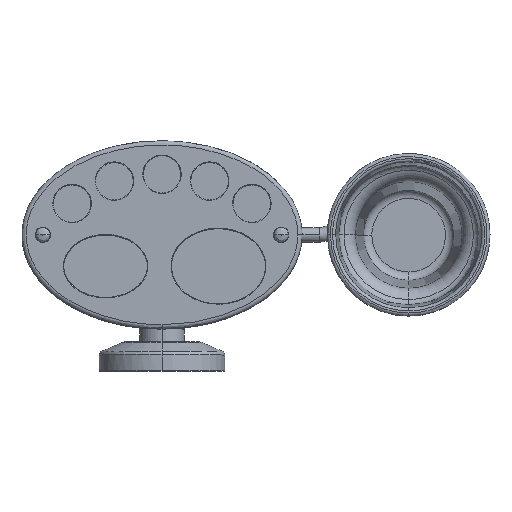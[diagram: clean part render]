
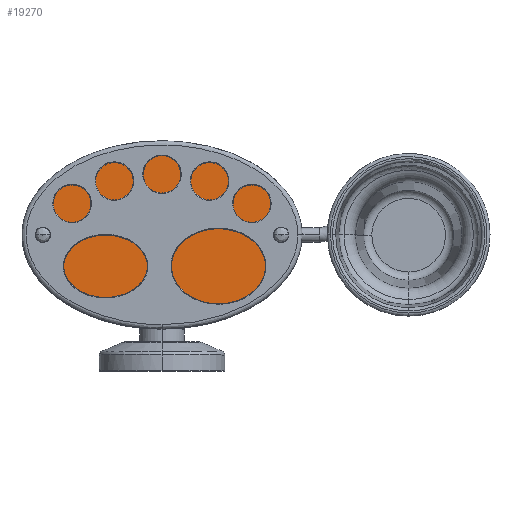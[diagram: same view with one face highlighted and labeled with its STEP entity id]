
A CAD part, top view. The second image highlights one B-rep face of the part: STEP entity #19270.
In plain terms, the highlighted planar face has unit normal (0, 0, 1).
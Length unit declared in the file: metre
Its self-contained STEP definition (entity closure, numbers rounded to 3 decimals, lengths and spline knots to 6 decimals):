
#19015=VERTEX_POINT('',#19016);
#19016=CARTESIAN_POINT('',(0.06,0.051,0.004));
#19021=CARTESIAN_POINT('',(0.06,0.051,0.004));
#19023=EDGE_CURVE('',#19015,#19024,#19026,.T.);
#19024=VERTEX_POINT('',#19025);
#19025=CARTESIAN_POINT('',(0.054,0.051,0.004));
#19026=(B_SPLINE_CURVE(3,(#19021,#19027,#19028,#19029),.UNSPECIFIED.,.F.,
  .U.)B_SPLINE_CURVE_WITH_KNOTS((4,4),(0.0,1.0),.UNSPECIFIED.)BOUNDED_CURVE(
  )CURVE()GEOMETRIC_REPRESENTATION_ITEM()RATIONAL_B_SPLINE_CURVE((1.0,
  0.333,0.333,1.0))REPRESENTATION_ITEM(''));
#19027=CARTESIAN_POINT('',(0.06,0.057,0.004));
#19028=CARTESIAN_POINT('',(0.054,0.057,0.004));
#19029=CARTESIAN_POINT('',(0.054,0.051,0.004));
#19057=VERTEX_POINT('',#19058);
#19058=CARTESIAN_POINT('',(-0.054,0.051,0.004));
#19063=CARTESIAN_POINT('',(-0.054,0.051,0.004));
#19065=EDGE_CURVE('',#19057,#19066,#19068,.T.);
#19066=VERTEX_POINT('',#19067);
#19067=CARTESIAN_POINT('',(-0.06,0.051,0.004));
#19068=(B_SPLINE_CURVE(3,(#19063,#19069,#19070,#19071),.UNSPECIFIED.,.F.,
  .U.)B_SPLINE_CURVE_WITH_KNOTS((4,4),(0.0,1.0),.UNSPECIFIED.)BOUNDED_CURVE(
  )CURVE()GEOMETRIC_REPRESENTATION_ITEM()RATIONAL_B_SPLINE_CURVE((1.0,
  0.333,0.333,1.0))REPRESENTATION_ITEM(''));
#19069=CARTESIAN_POINT('',(-0.054,0.057,0.004));
#19070=CARTESIAN_POINT('',(-0.06,0.057,0.004));
#19071=CARTESIAN_POINT('',(-0.06,0.051,0.004));
#19142=EDGE_CURVE('',#19066,#19057,#19143,.T.);
#19143=CIRCLE('',#19144,0.003);
#19144=AXIS2_PLACEMENT_3D('',#19145,#19146,#19147);
#19145=CARTESIAN_POINT('',(-0.057,0.051,0.004));
#19146=DIRECTION('',(0.0,0.,1.0));
#19147=DIRECTION('',(-1.0,-0.0,0.0));
#19161=EDGE_CURVE('',#19024,#19015,#19162,.T.);
#19162=CIRCLE('',#19163,0.003);
#19163=AXIS2_PLACEMENT_3D('',#19164,#19165,#19166);
#19164=CARTESIAN_POINT('',(0.057,0.051,0.004));
#19165=DIRECTION('',(0.0,0.,1.0));
#19166=DIRECTION('',(-1.0,-0.0,0.0));
#19270=ADVANCED_FACE('',(#19276,#19338,#19342),#19271,.T.);
#19271=PLANE('',#19272);
#19272=AXIS2_PLACEMENT_3D('',#19273,#19274,#19275);
#19273=CARTESIAN_POINT('',(0.0,0.051,0.004));
#19274=DIRECTION('',(0.0,0.,1.0));
#19275=DIRECTION('',(0.0,1.0,0.));
#19276=FACE_OUTER_BOUND('',#19277,.T.);
#19277=EDGE_LOOP('',(#19278,#19322));
#19278=ORIENTED_EDGE('',*,*,#19279,.T.);
#19279=EDGE_CURVE('',#19280,#19283,#19285,.T.);
#19280=VERTEX_POINT('',#19281);
#19281=CARTESIAN_POINT('',(-0.0,0.095,0.004));
#19282=CARTESIAN_POINT('',(-0.0,0.095,0.004));
#19283=VERTEX_POINT('',#19284);
#19284=CARTESIAN_POINT('',(0.066,0.051,0.004));
#19285=B_SPLINE_CURVE_WITH_KNOTS('',2,(#19282,#19286,#19287,#19288,#19289,
  #19290,#19291,#19292,#19293,#19294,#19295,#19296,#19297,#19298,#19299,
  #19300,#19301,#19302,#19303,#19304,#19305,#19306,#19307,#19308,#19309,
  #19310,#19311,#19312,#19313,#19314,#19315,#19316,#19317,#19318,#19319,
  #19320,#19321),.UNSPECIFIED.,.F.,.U.,(3,2,2,2,2,2,2,2,2,2,2,2,2,2,2,2,
  2,2,3),(0.0,0.0625,0.125,0.1875,0.25,0.28125,0.3125,0.375,0.4375,0.5,
  0.5625,0.625,0.6875,0.75,0.8125,0.875,0.9375,0.96875,1.0),
  .UNSPECIFIED.);
#19286=CARTESIAN_POINT('',(-0.008246,0.094998,0.004));
#19287=CARTESIAN_POINT('',(-0.01622,0.093647,0.004));
#19288=CARTESIAN_POINT('',(-0.02451,0.092244,0.004));
#19289=CARTESIAN_POINT('',(-0.031985,0.089476,0.004));
#19290=CARTESIAN_POINT('',(-0.040034,0.086495,0.004));
#19291=CARTESIAN_POINT('',(-0.046547,0.082171,0.004));
#19292=CARTESIAN_POINT('',(-0.053861,0.077315,0.004));
#19293=CARTESIAN_POINT('',(-0.058621,0.07119,0.004));
#19294=CARTESIAN_POINT('',(-0.061214,0.067853,0.004));
#19295=CARTESIAN_POINT('',(-0.062937,0.064228,0.004));
#19296=CARTESIAN_POINT('',(-0.06475,0.060412,0.004));
#19297=CARTESIAN_POINT('',(-0.065492,0.05644,0.004));
#19298=CARTESIAN_POINT('',(-0.067016,0.048278,0.004));
#19299=CARTESIAN_POINT('',(-0.064017,0.040315,0.004));
#19300=CARTESIAN_POINT('',(-0.061258,0.032988,0.004));
#19301=CARTESIAN_POINT('',(-0.05499,0.026695,0.004));
#19302=CARTESIAN_POINT('',(-0.0495,0.021183,0.004));
#19303=CARTESIAN_POINT('',(-0.041858,0.017,0.004));
#19304=CARTESIAN_POINT('',(-0.034963,0.013227,0.004));
#19305=CARTESIAN_POINT('',(-0.02682,0.010806,0.004));
#19306=CARTESIAN_POINT('',(-0.019134,0.00852,0.004));
#19307=CARTESIAN_POINT('',(-0.010832,0.007598,0.004));
#19308=CARTESIAN_POINT('',(-0.002758,0.006701,0.004));
#19309=CARTESIAN_POINT('',(0.005396,0.007148,0.004));
#19310=CARTESIAN_POINT('',(0.013678,0.007601,0.004));
#19311=CARTESIAN_POINT('',(0.021524,0.009411,0.004));
#19312=CARTESIAN_POINT('',(0.029714,0.011301,0.004));
#19313=CARTESIAN_POINT('',(0.036892,0.014531,0.004));
#19314=CARTESIAN_POINT('',(0.044791,0.018086,0.004));
#19315=CARTESIAN_POINT('',(0.05088,0.023,0.004));
#19316=CARTESIAN_POINT('',(0.05775,0.028544,0.004));
#19317=CARTESIAN_POINT('',(0.061635,0.035289,0.004));
#19318=CARTESIAN_POINT('',(0.063742,0.038946,0.004));
#19319=CARTESIAN_POINT('',(0.064848,0.042841,0.004));
#19320=CARTESIAN_POINT('',(0.066002,0.046903,0.004));
#19321=CARTESIAN_POINT('',(0.066,0.051,0.004));
#19322=ORIENTED_EDGE('',*,*,#19324,.T.);
#19323=CARTESIAN_POINT('',(0.066,0.051,0.004));
#19324=EDGE_CURVE('',#19283,#19280,#19325,.T.);
#19325=B_SPLINE_CURVE_WITH_KNOTS('',2,(#19323,#19326,#19327,#19328,#19329,
  #19330,#19331,#19332,#19333,#19334,#19335,#19336,#19337),.UNSPECIFIED.,
  .F.,.U.,(3,2,2,2,2,2,3),(0.0,0.125,0.25,0.375,0.5,0.75,1.0),
  .UNSPECIFIED.);
#19326=CARTESIAN_POINT('',(0.065996,0.056442,0.004));
#19327=CARTESIAN_POINT('',(0.06401,0.061705,0.004));
#19328=CARTESIAN_POINT('',(0.06214,0.06666,0.004));
#19329=CARTESIAN_POINT('',(0.058611,0.071202,0.004));
#19330=CARTESIAN_POINT('',(0.055406,0.075328,0.004));
#19331=CARTESIAN_POINT('',(0.050962,0.078933,0.004));
#19332=CARTESIAN_POINT('',(0.046868,0.082255,0.004));
#19333=CARTESIAN_POINT('',(0.041883,0.084986,0.004));
#19334=CARTESIAN_POINT('',(0.032722,0.090004,0.004));
#19335=CARTESIAN_POINT('',(0.021559,0.092581,0.004));
#19336=CARTESIAN_POINT('',(0.01111,0.094992,0.004));
#19337=CARTESIAN_POINT('',(-0.0,0.095,0.004));
#19338=FACE_BOUND('',#19339,.T.);
#19339=EDGE_LOOP('',(#19340,#19341));
#19340=ORIENTED_EDGE('',*,*,#19161,.F.);
#19341=ORIENTED_EDGE('',*,*,#19023,.F.);
#19342=FACE_BOUND('',#19343,.T.);
#19343=EDGE_LOOP('',(#19344,#19345));
#19344=ORIENTED_EDGE('',*,*,#19142,.F.);
#19345=ORIENTED_EDGE('',*,*,#19065,.F.);
